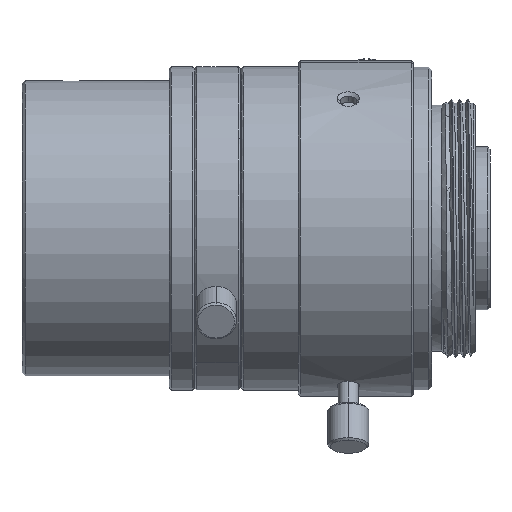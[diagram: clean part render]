
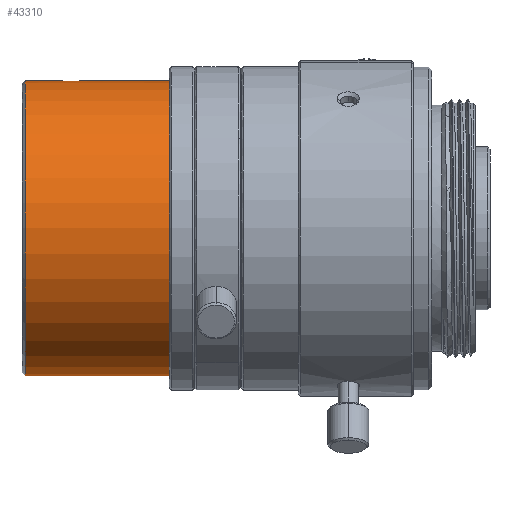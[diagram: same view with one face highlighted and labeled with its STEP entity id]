
A CAD part, left-side view. The second image highlights one B-rep face of the part: STEP entity #43310.
In plain terms, the highlighted cylindrical face has radius 14.5 mm (diameter 29 mm), a partial arc.
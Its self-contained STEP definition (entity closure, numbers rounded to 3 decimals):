
#739 = VERTEX_POINT ( 'NONE', #73316 ) ;
#1390 = VERTEX_POINT ( 'NONE', #12513 ) ;
#1814 = VERTEX_POINT ( 'NONE', #62490 ) ;
#4596 = CARTESIAN_POINT ( 'NONE',  ( 0., -0.3, 14.5 ) ) ;
#4634 = CARTESIAN_POINT ( 'NONE',  ( 0., 2.188, 0. ) ) ;
#4826 = DIRECTION ( 'NONE',  ( 0., -1., 0. ) ) ;
#6717 = DIRECTION ( 'NONE',  ( 0., 0., -1. ) ) ;
#8104 = VERTEX_POINT ( 'NONE', #66882 ) ;
#8960 = AXIS2_PLACEMENT_3D ( 'NONE', #4634, #4826, #6717 ) ;
#10992 = ORIENTED_EDGE ( 'NONE', *, *, #55181, .T. ) ;
#12397 = B_SPLINE_CURVE_WITH_KNOTS ( 'NONE', 3,
 ( #29813, #29699, #29524, #29507, #29408, #29392, #29320, #29231, #29212, #29112, #29098, #29020, #28906, #28889, #28786, #28772, #28698, #28597 ),
 .UNSPECIFIED., .F., .F.,
 ( 4, 2, 2, 2, 2, 2, 2, 2, 4 ),
 ( 0., 0., 0.001, 0.001, 0.002, 0.002, 0.003, 0.003, 0.003 ),
 .UNSPECIFIED. ) ;
#12513 = CARTESIAN_POINT ( 'NONE',  ( 0., -15.06, -14.5 ) ) ;
#13130 = EDGE_CURVE ( 'NONE', #8104, #1814, #12397, .T. ) ;
#17115 = EDGE_LOOP ( 'NONE', ( #84608, #79850, #10992, #47557, #44434, #62267 ) ) ;
#24246 = EDGE_CURVE ( 'NONE', #8104, #739, #25912, .T. ) ;
#25540 = VECTOR ( 'NONE', #38670, 1000. ) ;
#25734 = DIRECTION ( 'NONE',  ( 0., -1., 0. ) ) ;
#25912 = LINE ( 'NONE', #38963, #25540 ) ;
#27156 = CARTESIAN_POINT ( 'NONE',  ( 0., -15.06, 0. ) ) ;
#27564 = VECTOR ( 'NONE', #55273, 1000. ) ;
#27747 = LINE ( 'NONE', #48004, #27564 ) ;
#28597 = CARTESIAN_POINT ( 'NONE',  ( 0., -3.7, 14.5 ) ) ;
#28698 = CARTESIAN_POINT ( 'NONE',  ( -0.147, -3.699, 14.5 ) ) ;
#28772 = CARTESIAN_POINT ( 'NONE',  ( -0.292, -3.728, 14.498 ) ) ;
#28786 = CARTESIAN_POINT ( 'NONE',  ( -0.562, -3.837, 14.49 ) ) ;
#28889 = CARTESIAN_POINT ( 'NONE',  ( -0.686, -3.917, 14.484 ) ) ;
#28906 = CARTESIAN_POINT ( 'NONE',  ( -0.896, -4.121, 14.473 ) ) ;
#29020 = CARTESIAN_POINT ( 'NONE',  ( -0.979, -4.242, 14.467 ) ) ;
#29098 = CARTESIAN_POINT ( 'NONE',  ( -1.094, -4.511, 14.459 ) ) ;
#29112 = CARTESIAN_POINT ( 'NONE',  ( -1.123, -4.656, 14.456 ) ) ;
#29212 = CARTESIAN_POINT ( 'NONE',  ( -1.123, -4.946, 14.456 ) ) ;
#29231 = CARTESIAN_POINT ( 'NONE',  ( -1.093, -5.092, 14.459 ) ) ;
#29320 = CARTESIAN_POINT ( 'NONE',  ( -0.979, -5.358, 14.467 ) ) ;
#29392 = CARTESIAN_POINT ( 'NONE',  ( -0.894, -5.481, 14.473 ) ) ;
#29408 = CARTESIAN_POINT ( 'NONE',  ( -0.686, -5.683, 14.484 ) ) ;
#29507 = CARTESIAN_POINT ( 'NONE',  ( -0.561, -5.763, 14.49 ) ) ;
#29524 = CARTESIAN_POINT ( 'NONE',  ( -0.291, -5.872, 14.498 ) ) ;
#29699 = CARTESIAN_POINT ( 'NONE',  ( -0.147, -5.901, 14.5 ) ) ;
#29813 = CARTESIAN_POINT ( 'NONE',  ( 0., -5.9, 14.5 ) ) ;
#33105 = CIRCLE ( 'NONE', #61669, 14.5 ) ;
#34471 = DIRECTION ( 'NONE',  ( 0., 0., -1. ) ) ;
#35699 = AXIS2_PLACEMENT_3D ( 'NONE', #27156, #77564, #34471 ) ;
#38670 = DIRECTION ( 'NONE',  ( 0., -1., 0. ) ) ;
#38963 = CARTESIAN_POINT ( 'NONE',  ( 0., 2.188, 14.5 ) ) ;
#43310 = ADVANCED_FACE ( 'N', ( #47970 ), #45912, .T. ) ;
#43830 = CIRCLE ( 'NONE', #35699, 14.5 ) ;
#44434 = ORIENTED_EDGE ( 'NONE', *, *, #24246, .F. ) ;
#45912 = CYLINDRICAL_SURFACE ( 'NONE', #8960, 14.5 ) ;
#47557 = ORIENTED_EDGE ( 'NONE', *, *, #61803, .T. ) ;
#47970 = FACE_OUTER_BOUND ( 'NONE', #17115, .T. ) ;
#48004 = CARTESIAN_POINT ( 'NONE',  ( 0., 2.188, 14.5 ) ) ;
#48445 = CARTESIAN_POINT ( 'NONE',  ( 0., -0.3, -14.5 ) ) ;
#55181 = EDGE_CURVE ( 'NONE', #87553, #1390, #86211, .T. ) ;
#55273 = DIRECTION ( 'NONE',  ( 0., -1., 0. ) ) ;
#61201 = DIRECTION ( 'NONE',  ( 0., -1., 0. ) ) ;
#61669 = AXIS2_PLACEMENT_3D ( 'NONE', #68966, #25734, #76164 ) ;
#61803 = EDGE_CURVE ( 'NONE', #1390, #739, #43830, .T. ) ;
#62267 = ORIENTED_EDGE ( 'NONE', *, *, #13130, .T. ) ;
#62490 = CARTESIAN_POINT ( 'NONE',  ( 0., -3.7, 14.5 ) ) ;
#66882 = CARTESIAN_POINT ( 'NONE',  ( 0., -5.9, 14.5 ) ) ;
#68966 = CARTESIAN_POINT ( 'NONE',  ( 0., -0.3, 0. ) ) ;
#73316 = CARTESIAN_POINT ( 'NONE',  ( 0., -15.06, 14.5 ) ) ;
#76164 = DIRECTION ( 'NONE',  ( 0., 0., -1. ) ) ;
#76208 = EDGE_CURVE ( 'NONE', #86397, #87553, #33105, .T. ) ;
#77564 = DIRECTION ( 'NONE',  ( 0., 1., 0. ) ) ;
#79850 = ORIENTED_EDGE ( 'NONE', *, *, #76208, .T. ) ;
#82453 = CARTESIAN_POINT ( 'NONE',  ( 0., 2.188, -14.5 ) ) ;
#84608 = ORIENTED_EDGE ( 'NONE', *, *, #91683, .F. ) ;
#85350 = VECTOR ( 'NONE', #61201, 1000. ) ;
#86211 = LINE ( 'NONE', #82453, #85350 ) ;
#86397 = VERTEX_POINT ( 'NONE', #4596 ) ;
#87553 = VERTEX_POINT ( 'NONE', #48445 ) ;
#91683 = EDGE_CURVE ( 'NONE', #86397, #1814, #27747, .T. ) ;
